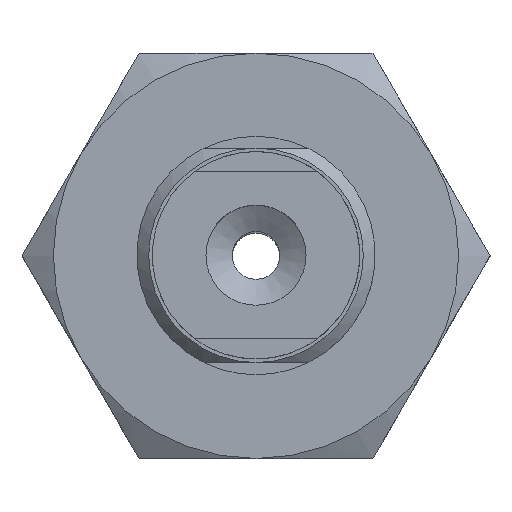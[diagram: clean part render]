
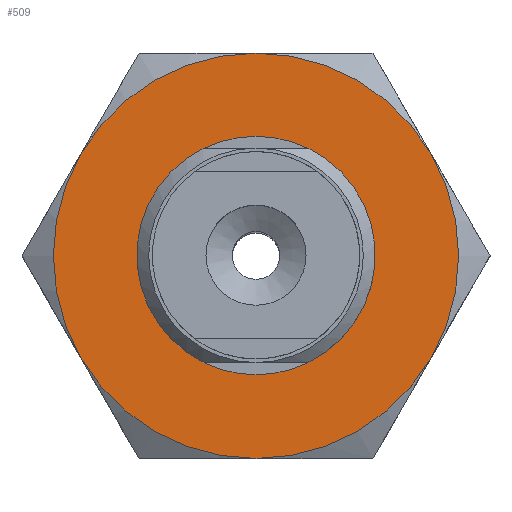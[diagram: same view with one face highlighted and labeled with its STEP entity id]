
A CAD part, top view. The second image highlights one B-rep face of the part: STEP entity #509.
In plain terms, the highlighted planar face has unit normal (0, 0, 1).
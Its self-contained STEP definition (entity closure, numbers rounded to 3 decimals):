
#509=ADVANCED_FACE('',(#719,#720),#721,.T.);
#719=FACE_BOUND('',#1016,.T.);
#720=FACE_OUTER_BOUND('',#1017,.T.);
#721=PLANE('',#1018);
#1016=EDGE_LOOP('',(#1605));
#1017=EDGE_LOOP('',(#1606,#1607,#1608,#1609,#1610,#1611));
#1018=AXIS2_PLACEMENT_3D('',#1612,#1613,#1614);
#1605=ORIENTED_EDGE('',*,*,#2046,.F.);
#1606=ORIENTED_EDGE('',*,*,#2051,.F.);
#1607=ORIENTED_EDGE('',*,*,#2053,.F.);
#1608=ORIENTED_EDGE('',*,*,#2032,.F.);
#1609=ORIENTED_EDGE('',*,*,#2027,.F.);
#1610=ORIENTED_EDGE('',*,*,#2055,.F.);
#1611=ORIENTED_EDGE('',*,*,#2052,.F.);
#1612=CARTESIAN_POINT('',(-9.815,-8.5,4.0));
#1613=DIRECTION('',(0.0,0.0,1.0));
#1614=DIRECTION('',(1.0,0.0,0.0));
#2027=EDGE_CURVE('',#2300,#2303,#2304,.T.);
#2032=EDGE_CURVE('',#2303,#2288,#2310,.T.);
#2046=EDGE_CURVE('',#2334,#2334,#2335,.T.);
#2051=EDGE_CURVE('',#2329,#2338,#2341,.T.);
#2052=EDGE_CURVE('',#2338,#2323,#2342,.T.);
#2053=EDGE_CURVE('',#2288,#2329,#2343,.T.);
#2055=EDGE_CURVE('',#2323,#2300,#2345,.T.);
#2288=VERTEX_POINT('',#2776);
#2300=VERTEX_POINT('',#2806);
#2303=VERTEX_POINT('',#2817);
#2304=CIRCLE('',#2818,8.5);
#2310=CIRCLE('',#2840,8.5);
#2323=VERTEX_POINT('',#2870);
#2329=VERTEX_POINT('',#2889);
#2334=VERTEX_POINT('',#2902);
#2335=CIRCLE('',#2903,4.5);
#2338=VERTEX_POINT('',#2910);
#2341=CIRCLE('',#2921,8.5);
#2342=CIRCLE('',#2922,8.5);
#2343=CIRCLE('',#2923,8.5);
#2345=CIRCLE('',#2925,8.5);
#2776=CARTESIAN_POINT('',(7.361,-4.25,4.0));
#2806=CARTESIAN_POINT('',(0.,8.5,4.0));
#2817=CARTESIAN_POINT('',(7.361,4.25,4.0));
#2818=AXIS2_PLACEMENT_3D('',#3254,#3255,#3256);
#2840=AXIS2_PLACEMENT_3D('',#3257,#3258,#3259);
#2870=CARTESIAN_POINT('',(-7.361,4.25,4.0));
#2889=CARTESIAN_POINT('',(0.,-8.5,4.0));
#2902=CARTESIAN_POINT('',(0.0,-4.5,4.0));
#2903=AXIS2_PLACEMENT_3D('',#3268,#3269,#3270);
#2910=CARTESIAN_POINT('',(-7.361,-4.25,4.0));
#2921=AXIS2_PLACEMENT_3D('',#3274,#3275,#3276);
#2922=AXIS2_PLACEMENT_3D('',#3277,#3278,#3279);
#2923=AXIS2_PLACEMENT_3D('',#3280,#3281,#3282);
#2925=AXIS2_PLACEMENT_3D('',#3286,#3287,#3288);
#3254=CARTESIAN_POINT('',(0.,0.,4.0));
#3255=DIRECTION('',(0.,0.,-1.0));
#3256=DIRECTION('',(0.866,0.5,0.));
#3257=CARTESIAN_POINT('',(0.,0.,4.0));
#3258=DIRECTION('',(0.,0.,-1.0));
#3259=DIRECTION('',(0.866,0.5,0.));
#3268=CARTESIAN_POINT('',(0.0,0.0,4.0));
#3269=DIRECTION('',(0.0,0.,1.0));
#3270=DIRECTION('',(0.0,-1.0,0.));
#3274=CARTESIAN_POINT('',(0.,0.,4.0));
#3275=DIRECTION('',(0.,0.,-1.0));
#3276=DIRECTION('',(0.866,0.5,0.));
#3277=CARTESIAN_POINT('',(0.,0.,4.0));
#3278=DIRECTION('',(0.,0.,-1.0));
#3279=DIRECTION('',(0.866,0.5,0.));
#3280=CARTESIAN_POINT('',(0.,0.,4.0));
#3281=DIRECTION('',(0.,0.,-1.0));
#3282=DIRECTION('',(0.866,0.5,0.));
#3286=CARTESIAN_POINT('',(0.,0.,4.0));
#3287=DIRECTION('',(0.,0.,-1.0));
#3288=DIRECTION('',(0.866,0.5,0.));
